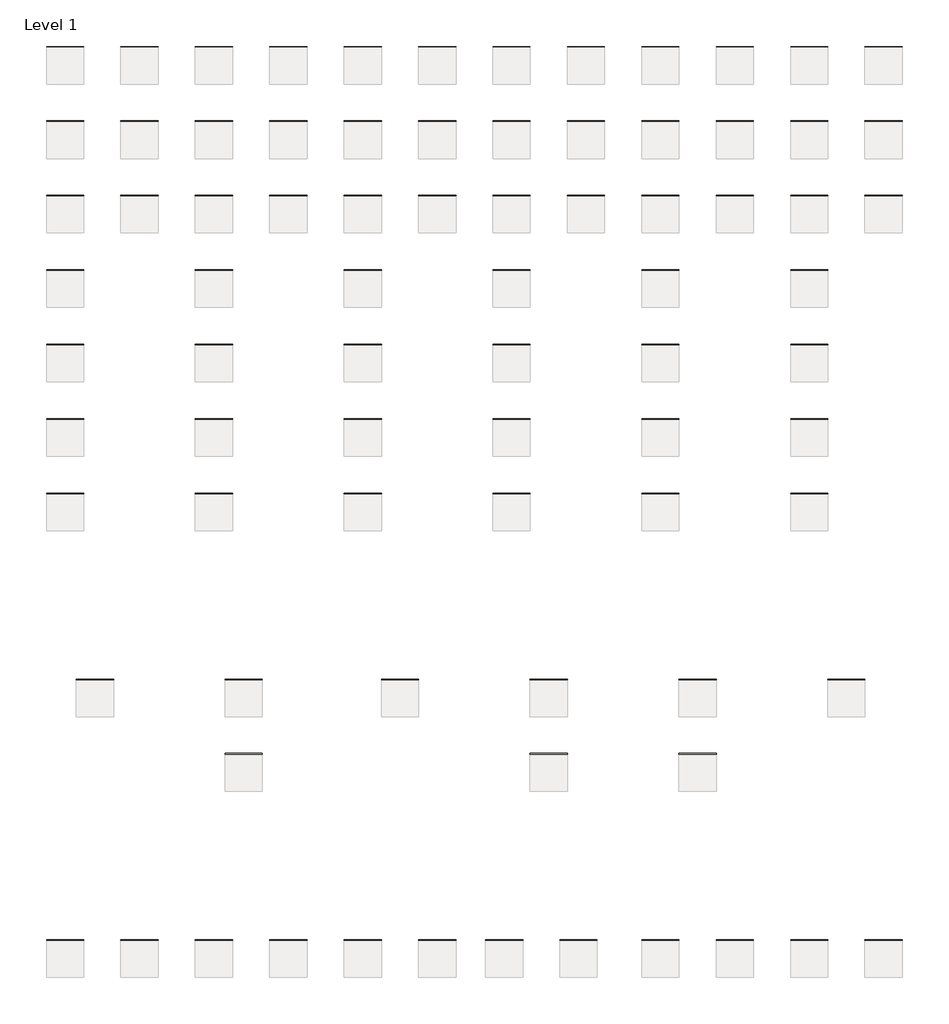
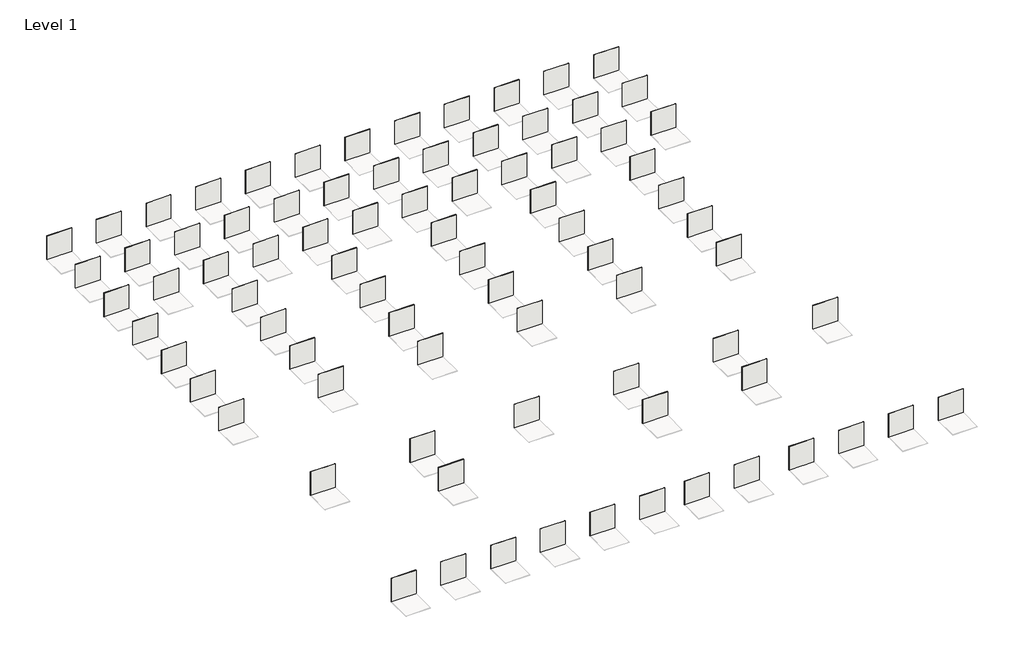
# One storey, part 1 of 2: 81 coverings.
"""IFC4 building model written with IfcOpenShell, lengths in millimetres."""

import ifcopenshell
import ifcopenshell.guid

model = None  # the IFC model being written
_history = None  # IfcOwnerHistory: only IFC2X3 demands one
_inside = {}  # id of a spatial element -> (the spatial element, [elements in it])
_under = {}  # id of a project, library or spatial element -> (it, [spatial elements below it])
_declared = {}  # id of a project -> (the project, [libraries it declares])
_typed = {}  # id of a type object -> (the type object, [elements of that type])
_made_of = {}  # id of a material, layer set ... -> (it, [elements and type objects made of it])


def new_model(schema):
    """Start an empty IFC model of exactly this schema.

    Asked for "IFC4X3", IfcOpenShell would pick the latest addendum, in which some entities
    have other attributes; the version numbers below select the first issue.
    IFC2X3 requires an IfcOwnerHistory on every rooted entity: one is made here for all.
    """
    global model, _history
    if schema == "IFC4X3":
        model = ifcopenshell.file(schema_version=(4, 3, 0, 0))
    else:
        model = ifcopenshell.file(schema=schema)
    _inside.clear()
    _under.clear()
    _declared.clear()
    _typed.clear()
    _made_of.clear()
    _history = None
    if model.schema == "IFC2X3":
        org = make("IfcOrganization", Name="unknown")
        user = make(
            "IfcPersonAndOrganization",
            ThePerson=make("IfcPerson", FamilyName="unknown"),
            TheOrganization=org,
        )
        app = make(
            "IfcApplication",
            ApplicationDeveloper=org,
            Version="unknown",
            ApplicationFullName="unknown",
            ApplicationIdentifier="unknown",
        )
        _history = make(
            "IfcOwnerHistory",
            OwningUser=user,
            OwningApplication=app,
            ChangeAction="ADDED",
            CreationDate=0,
        )
    return model


def make(cls, **values):
    """One entity of the class cls with the attributes given. An attribute that is None is left unset."""
    return model.create_entity(
        cls, **{name: value for name, value in values.items() if value is not None}
    )


def rooted(cls, **values):
    """An entity with a GlobalId (a new one), such as an element, a storey or a relation."""
    return make(cls, GlobalId=ifcopenshell.guid.new(), OwnerHistory=_history, **values)


def si_unit(unit_type, name, prefix=None):
    """IfcSIUnit, for example si_unit("LENGTHUNIT", "METRE", prefix="MILLI")."""
    return make("IfcSIUnit", UnitType=unit_type, Prefix=prefix, Name=name)


def assignment(units):
    """IfcUnitAssignment: the units of a project."""
    return None if units is None else make("IfcUnitAssignment", Units=units)


def point(xyz):
    """IfcCartesianPoint."""
    return None if xyz is None else make("IfcCartesianPoint", Coordinates=xyz)


def direction(xyz):
    """IfcDirection."""
    return None if xyz is None else make("IfcDirection", DirectionRatios=xyz)


def frame(location, z_axis=None, x_axis=None):
    """IfcAxis2Placement3D, a coordinate frame: its origin and axes. An axis left out is left unset."""
    return make(
        "IfcAxis2Placement3D",
        Location=point(location),
        Axis=direction(z_axis),
        RefDirection=direction(x_axis),
    )


def origin():
    """The frame at (0, 0, 0) with its axes left unset."""
    return frame((0.0, 0.0, 0.0))


def origin_with_axes():
    """The frame at (0, 0, 0) with the z axis (0, 0, 1) and the x axis (1, 0, 0) written out."""
    return frame((0.0, 0.0, 0.0), z_axis=(0.0, 0.0, 1.0), x_axis=(1.0, 0.0, 0.0))


def place(relative_to, where):
    """IfcLocalPlacement: puts the frame where relative to a parent placement (None: the world)."""
    return make(
        "IfcLocalPlacement", PlacementRelTo=relative_to, RelativePlacement=where
    )


def context(
    kind, dimensions, precision=None, world=None, true_north=None, identifier=None
):
    """IfcGeometricRepresentationContext, for example the 3D "Model" context."""
    return make(
        "IfcGeometricRepresentationContext",
        ContextIdentifier=identifier,
        ContextType=kind,
        CoordinateSpaceDimension=dimensions,
        Precision=precision,
        WorldCoordinateSystem=world,
        TrueNorth=true_north,
    )


def project(units=None, contexts=None):
    """IfcProject with its units and contexts."""
    return rooted(
        "IfcProject",
        Name="project",
        RepresentationContexts=contexts,
        UnitsInContext=assignment(units),
    )


def spatial(cls, under=None, at=None, **own):
    """A site, building, storey or space (cls), placed at a placement, below another one or the project."""
    s = rooted(cls, ObjectPlacement=at, **own)
    if under is not None:
        _under.setdefault(under.id(), (under, []))[1].append(s)
    return s


def polyline(points):
    """IfcPolyline through the points."""
    return make("IfcPolyline", Points=[point(p) for p in points])


def outline(outer, holes=None, kind="AREA"):
    """IfcArbitraryClosedProfileDef: a profile drawn as a closed curve; with holes, ...WithVoids."""
    if holes is None:
        return make("IfcArbitraryClosedProfileDef", ProfileType=kind, OuterCurve=outer)
    return make(
        "IfcArbitraryProfileDefWithVoids",
        ProfileType=kind,
        OuterCurve=outer,
        InnerCurves=holes,
    )


def extrude(swept, where, along, depth):
    """IfcExtrudedAreaSolid: the profile swept, set in the frame where, extruded along a direction by depth."""
    return make(
        "IfcExtrudedAreaSolid",
        SweptArea=swept,
        Position=where,
        ExtrudedDirection=direction(along),
        Depth=depth,
    )


def shape(context_of_items, identifier, shape_type, items):
    """IfcShapeRepresentation: the items that make up one representation, for example the "Body"."""
    return make(
        "IfcShapeRepresentation",
        ContextOfItems=context_of_items,
        RepresentationIdentifier=identifier,
        RepresentationType=shape_type,
        Items=items,
    )


def made_of(thing, what):
    """Note that an element or type object is made of a material, layer set ...; save() writes the relation."""
    if what is not None:
        _made_of.setdefault(what.id(), (what, []))[1].append(thing)
    return thing


def element(
    cls,
    number,
    at=None,
    inside=None,
    cuts=None,
    type_object=None,
    material=None,
    context=None,
    identifier="Body",
    shape_type=None,
    held_by="IfcProductDefinitionShape",
    body=None,
    shapes=None,
    **own,
):
    """One element of the class cls, such as IfcWall. Its Tag is "e" and its number.

    at: its placement. inside: the storey or other place that contains it. cuts: it is an
    opening in that element (IfcRelVoidsElement). A single representation is given by context,
    identifier, shape_type and body (its items); several are given by shapes. held_by: the class
    of the entity that holds the representations. save() writes the other relations.
    """
    e = rooted(cls, Tag="e%d" % number, ObjectPlacement=at, **own)
    if body is not None:
        shapes = [shape(context, identifier, shape_type, body)]
    if shapes is not None:
        e.Representation = make(held_by, Representations=shapes)
    if inside is not None:
        _inside.setdefault(inside.id(), (inside, []))[1].append(e)
    if cuts is not None:
        rooted(
            "IfcRelVoidsElement", RelatingBuildingElement=cuts, RelatedOpeningElement=e
        )
    if type_object is not None:
        _typed.setdefault(type_object.id(), (type_object, []))[1].append(e)
    return made_of(e, material)


def aggregate(whole, parts):
    """IfcRelAggregates: a whole, such as a stair, and the parts it consists of."""
    return rooted("IfcRelAggregates", RelatingObject=whole, RelatedObjects=parts)


def save(model, path):
    """Write the relations noted so far, then the file.

    IfcRelAggregates (storeys below a building ...), IfcRelContainedInSpatialStructure (elements
    in a storey), IfcRelDefinesByType, IfcRelAssociatesMaterial and IfcRelDeclares: one each for
    every whole, place, type object, material and project.
    """
    for whole, parts in _under.values():
        aggregate(whole, parts)
    for where, things in _inside.values():
        rooted(
            "IfcRelContainedInSpatialStructure",
            RelatedElements=things,
            RelatingStructure=where,
        )
    for kind, things in _typed.values():
        rooted("IfcRelDefinesByType", RelatedObjects=things, RelatingType=kind)
    for what, things in _made_of.values():
        rooted("IfcRelAssociatesMaterial", RelatedObjects=things, RelatingMaterial=what)
    for by, libraries in _declared.values():
        rooted("IfcRelDeclares", RelatingContext=by, RelatedDefinitions=libraries)
    model.write(path)


model = new_model("IFC4")

# Units and contexts
model_context = context("Model", 3, world=origin())
ifc_project = project(units=[si_unit("LENGTHUNIT", "METRE", prefix="MILLI")], contexts=[model_context])

# Site, building, storey
site = spatial("IfcSite", under=ifc_project)
building = spatial("IfcBuilding", under=site)
storey = spatial("IfcBuildingStorey", under=building, Name="Level 1", Elevation=0.0)

# Coverings
placement = place(None, origin())
element("IfcCovering", 1, ObjectType="REVIGRÉS-URBAN-BASE-29,5X29,5-RECT-ANTRACITE", at=placement, inside=storey, context=model_context, shape_type="SweptSolid", body=[
    extrude(outline(polyline([(3778.642714, -1191.9242026), (2778.642714, -1191.9242026), (2778.642714, -1184.2242026), (3778.642714, -1184.2242026), (3778.642714, -1191.9242026)])), origin_with_axes(), (0.0, 0.0, 1.0), 1000.0),
])
element("IfcCovering", 2, ObjectType="REVIGRÉS-URBAN-BASE-29,5X29,5-NAT-ANTRACITE", at=placement, inside=storey, context=model_context, shape_type="SweptSolid", body=[
    extrude(outline(polyline([(5778.642714, -1191.9242026), (4778.642714, -1191.9242026), (4778.642714, -1183.4242026), (5778.642714, -1183.4242026), (5778.642714, -1191.9242026)])), origin_with_axes(), (0.0, 0.0, 1.0), 1000.0),
])
element("IfcCovering", 3, ObjectType="REVIGRÉS-URBAN-BASE-29,5X29,5-RECT-BONE", at=placement, inside=storey, context=model_context, shape_type="SweptSolid", body=[
    extrude(outline(polyline([(7778.642714, -1191.9242026), (6778.642714, -1191.9242026), (6778.642714, -1184.2242026), (7778.642714, -1184.2242026), (7778.642714, -1191.9242026)])), origin_with_axes(), (0.0, 0.0, 1.0), 1000.0),
])
element("IfcCovering", 4, ObjectType="REVIGRÉS-URBAN-BASE-29,5X29,5-NAT-BONE", at=placement, inside=storey, context=model_context, shape_type="SweptSolid", body=[
    extrude(outline(polyline([(9778.642714, -1191.9242026), (8778.642714, -1191.9242026), (8778.642714, -1183.4242026), (9778.642714, -1183.4242026), (9778.642714, -1191.9242026)])), origin_with_axes(), (0.0, 0.0, 1.0), 1000.0),
])
element("IfcCovering", 5, ObjectType="REVIGRÉS-URBAN-BASE-29,5X29,5-RECT-CRAFT", at=placement, inside=storey, context=model_context, shape_type="SweptSolid", body=[
    extrude(outline(polyline([(11778.642714, -1191.9242026), (10778.642714, -1191.9242026), (10778.642714, -1184.2242026), (11778.642714, -1184.2242026), (11778.642714, -1191.9242026)])), origin_with_axes(), (0.0, 0.0, 1.0), 1000.0),
])
element("IfcCovering", 6, ObjectType="REVIGRÉS-URBAN-BASE-29,5X29,5-NAT-CRAFT", at=placement, inside=storey, context=model_context, shape_type="SweptSolid", body=[
    extrude(outline(polyline([(13778.642714, -1191.9242026), (12778.642714, -1191.9242026), (12778.642714, -1183.4242026), (13778.642714, -1183.4242026), (13778.642714, -1191.9242026)])), origin_with_axes(), (0.0, 0.0, 1.0), 1000.0),
])
element("IfcCovering", 7, ObjectType="REVIGRÉS-URBAN-BASE-29,5X29,5-RECT-FOG", at=placement, inside=storey, context=model_context, shape_type="SweptSolid", body=[
    extrude(outline(polyline([(15778.642714, -1191.9242026), (14778.642714, -1191.9242026), (14778.642714, -1184.2242026), (15778.642714, -1184.2242026), (15778.642714, -1191.9242026)])), origin_with_axes(), (0.0, 0.0, 1.0), 1000.0),
])
element("IfcCovering", 8, ObjectType="REVIGRÉS-URBAN-BASE-29,5X29,5-NAT-FOG", at=placement, inside=storey, context=model_context, shape_type="SweptSolid", body=[
    extrude(outline(polyline([(17778.642714, -1191.9242026), (16778.642714, -1191.9242026), (16778.642714, -1183.4242026), (17778.642714, -1183.4242026), (17778.642714, -1191.9242026)])), origin_with_axes(), (0.0, 0.0, 1.0), 1000.0),
])
element("IfcCovering", 9, ObjectType="REVIGRÉS-URBAN-BASE-29,5X29,5-RECT-GRIS", at=placement, inside=storey, context=model_context, shape_type="SweptSolid", body=[
    extrude(outline(polyline([(19778.642714, -1191.9242026), (18778.642714, -1191.9242026), (18778.642714, -1184.2242026), (19778.642714, -1184.2242026), (19778.642714, -1191.9242026)])), origin_with_axes(), (0.0, 0.0, 1.0), 1000.0),
])
element("IfcCovering", 10, ObjectType="REVIGRÉS-URBAN-BASE-29,5X29,5-NAT-GRIS", at=placement, inside=storey, context=model_context, shape_type="SweptSolid", body=[
    extrude(outline(polyline([(21778.642714, -1191.9242026), (20778.642714, -1191.9242026), (20778.642714, -1183.4242026), (21778.642714, -1183.4242026), (21778.642714, -1191.9242026)])), origin_with_axes(), (0.0, 0.0, 1.0), 1000.0),
])
element("IfcCovering", 11, ObjectType="REVIGRÉS-URBAN-BASE-29,5X29,5-RECT-OFFWHITE", at=placement, inside=storey, context=model_context, shape_type="SweptSolid", body=[
    extrude(outline(polyline([(23778.642714, -1191.9242026), (22778.642714, -1191.9242026), (22778.642714, -1184.2242026), (23778.642714, -1184.2242026), (23778.642714, -1191.9242026)])), origin_with_axes(), (0.0, 0.0, 1.0), 1000.0),
])
element("IfcCovering", 12, ObjectType="REVIGRÉS-URBAN-BASE-29,5X59,2-RECT-ANTRACITE", at=placement, inside=storey, context=model_context, shape_type="SweptSolid", body=[
    extrude(outline(polyline([(3778.642714, -3191.9242026), (2778.642714, -3191.9242026), (2778.642714, -3183.4242026), (3778.642714, -3183.4242026), (3778.642714, -3191.9242026)])), origin_with_axes(), (0.0, 0.0, 1.0), 1000.0),
])
element("IfcCovering", 13, ObjectType="REVIGRÉS-URBAN-BASE-29,5X59,2-RECT-BONE", at=placement, inside=storey, context=model_context, shape_type="SweptSolid", body=[
    extrude(outline(polyline([(7778.642714, -3191.9242026), (6778.642714, -3191.9242026), (6778.642714, -3183.4242026), (7778.642714, -3183.4242026), (7778.642714, -3191.9242026)])), origin_with_axes(), (0.0, 0.0, 1.0), 1000.0),
])
element("IfcCovering", 14, ObjectType="REVIGRÉS-URBAN-BASE-29,5X59,2-RECT-CRAFT", at=placement, inside=storey, context=model_context, shape_type="SweptSolid", body=[
    extrude(outline(polyline([(11778.642714, -3191.9242026), (10778.642714, -3191.9242026), (10778.642714, -3183.4242026), (11778.642714, -3183.4242026), (11778.642714, -3191.9242026)])), origin_with_axes(), (0.0, 0.0, 1.0), 1000.0),
])
element("IfcCovering", 15, ObjectType="REVIGRÉS-URBAN-BASE-29,5X59,2-RECT-FOG", at=placement, inside=storey, context=model_context, shape_type="SweptSolid", body=[
    extrude(outline(polyline([(15778.642714, -3191.9242026), (14778.642714, -3191.9242026), (14778.642714, -3183.4242026), (15778.642714, -3183.4242026), (15778.642714, -3191.9242026)])), origin_with_axes(), (0.0, 0.0, 1.0), 1000.0),
])
element("IfcCovering", 16, ObjectType="REVIGRÉS-URBAN-BASE-29,5X59,2-RECT-GRIS", at=placement, inside=storey, context=model_context, shape_type="SweptSolid", body=[
    extrude(outline(polyline([(19778.642714, -3191.9242026), (18778.642714, -3191.9242026), (18778.642714, -3183.4242026), (19778.642714, -3183.4242026), (19778.642714, -3191.9242026)])), origin_with_axes(), (0.0, 0.0, 1.0), 1000.0),
])
element("IfcCovering", 17, ObjectType="REVIGRÉS-URBAN-BASE-29,5X59,2-RECT-OFFWHITE", at=placement, inside=storey, context=model_context, shape_type="SweptSolid", body=[
    extrude(outline(polyline([(23778.642714, -3191.9242026), (22778.642714, -3191.9242026), (22778.642714, -3183.4242026), (23778.642714, -3183.4242026), (23778.642714, -3191.9242026)])), origin_with_axes(), (0.0, 0.0, 1.0), 1000.0),
])
element("IfcCovering", 18, ObjectType="REVIGRÉS-URBAN-BASE-44,53X44,53-RECT-ANTRACITE", at=placement, inside=storey, context=model_context, shape_type="SweptSolid", body=[
    extrude(outline(polyline([(3778.642714, -5191.9242026), (2778.642714, -5191.9242026), (2778.642714, -5183.4242026), (3778.642714, -5183.4242026), (3778.642714, -5191.9242026)])), origin_with_axes(), (0.0, 0.0, 1.0), 1000.0),
])
element("IfcCovering", 19, ObjectType="REVIGRÉS-URBAN-BASE-45X45-NAT-ANTRACITE", at=placement, inside=storey, context=model_context, shape_type="SweptSolid", body=[
    extrude(outline(polyline([(5778.642714, -5191.9242026), (4778.642714, -5191.9242026), (4778.642714, -5183.4242026), (5778.642714, -5183.4242026), (5778.642714, -5191.9242026)])), origin_with_axes(), (0.0, 0.0, 1.0), 1000.0),
])
element("IfcCovering", 20, ObjectType="REVIGRÉS-URBAN-BASE-44,53X44,53-RECT-BONE", at=placement, inside=storey, context=model_context, shape_type="SweptSolid", body=[
    extrude(outline(polyline([(7778.642714, -5191.9242026), (6778.642714, -5191.9242026), (6778.642714, -5183.4242026), (7778.642714, -5183.4242026), (7778.642714, -5191.9242026)])), origin_with_axes(), (0.0, 0.0, 1.0), 1000.0),
])
element("IfcCovering", 21, ObjectType="REVIGRÉS-URBAN-BASE-45X45-NAT-BONE", at=placement, inside=storey, context=model_context, shape_type="SweptSolid", body=[
    extrude(outline(polyline([(9778.642714, -5191.9242026), (8778.642714, -5191.9242026), (8778.642714, -5183.4242026), (9778.642714, -5183.4242026), (9778.642714, -5191.9242026)])), origin_with_axes(), (0.0, 0.0, 1.0), 1000.0),
])
element("IfcCovering", 22, ObjectType="REVIGRÉS-URBAN-BASE-44,53X44,53-RECT-CRAFT", at=placement, inside=storey, context=model_context, shape_type="SweptSolid", body=[
    extrude(outline(polyline([(11778.642714, -5191.9242026), (10778.642714, -5191.9242026), (10778.642714, -5183.4242026), (11778.642714, -5183.4242026), (11778.642714, -5191.9242026)])), origin_with_axes(), (0.0, 0.0, 1.0), 1000.0),
])
element("IfcCovering", 23, ObjectType="REVIGRÉS-URBAN-BASE-45X45-NAT-CRAFT", at=placement, inside=storey, context=model_context, shape_type="SweptSolid", body=[
    extrude(outline(polyline([(13778.642714, -5191.9242026), (12778.642714, -5191.9242026), (12778.642714, -5183.4242026), (13778.642714, -5183.4242026), (13778.642714, -5191.9242026)])), origin_with_axes(), (0.0, 0.0, 1.0), 1000.0),
])
element("IfcCovering", 24, ObjectType="REVIGRÉS-URBAN-BASE-44,53X44,53-RECT-FOG", at=placement, inside=storey, context=model_context, shape_type="SweptSolid", body=[
    extrude(outline(polyline([(15778.642714, -5191.9242026), (14778.642714, -5191.9242026), (14778.642714, -5183.4242026), (15778.642714, -5183.4242026), (15778.642714, -5191.9242026)])), origin_with_axes(), (0.0, 0.0, 1.0), 1000.0),
])
element("IfcCovering", 25, ObjectType="REVIGRÉS-URBAN-BASE-45X45-NAT-FOG", at=placement, inside=storey, context=model_context, shape_type="SweptSolid", body=[
    extrude(outline(polyline([(17778.642714, -5191.9242026), (16778.642714, -5191.9242026), (16778.642714, -5183.4242026), (17778.642714, -5183.4242026), (17778.642714, -5191.9242026)])), origin_with_axes(), (0.0, 0.0, 1.0), 1000.0),
])
element("IfcCovering", 26, ObjectType="REVIGRÉS-URBAN-BASE-44,53X44,53-RECT-GRIS", at=placement, inside=storey, context=model_context, shape_type="SweptSolid", body=[
    extrude(outline(polyline([(19778.642714, -5191.9242026), (18778.642714, -5191.9242026), (18778.642714, -5183.4242026), (19778.642714, -5183.4242026), (19778.642714, -5191.9242026)])), origin_with_axes(), (0.0, 0.0, 1.0), 1000.0),
])
element("IfcCovering", 27, ObjectType="REVIGRÉS-URBAN-BASE-45X45-NAT-GRIS", at=placement, inside=storey, context=model_context, shape_type="SweptSolid", body=[
    extrude(outline(polyline([(21778.642714, -5191.9242026), (20778.642714, -5191.9242026), (20778.642714, -5183.4242026), (21778.642714, -5183.4242026), (21778.642714, -5191.9242026)])), origin_with_axes(), (0.0, 0.0, 1.0), 1000.0),
])
element("IfcCovering", 28, ObjectType="REVIGRÉS-URBAN-BASE-44,53X44,53-RECT-OFFWHITE", at=placement, inside=storey, context=model_context, shape_type="SweptSolid", body=[
    extrude(outline(polyline([(23778.642714, -5191.9242026), (22778.642714, -5191.9242026), (22778.642714, -5183.4242026), (23778.642714, -5183.4242026), (23778.642714, -5191.9242026)])), origin_with_axes(), (0.0, 0.0, 1.0), 1000.0),
])
element("IfcCovering", 29, ObjectType="REVIGRÉS-URBAN-BASE-44,53X88,9-RECT-ANTRACITE", at=placement, inside=storey, context=model_context, shape_type="SweptSolid", body=[
    extrude(outline(polyline([(3778.642714, -7191.9242026), (2778.642714, -7191.9242026), (2778.642714, -7181.4242026), (3778.642714, -7181.4242026), (3778.642714, -7191.9242026)])), origin_with_axes(), (0.0, 0.0, 1.0), 1000.0),
])
element("IfcCovering", 30, ObjectType="REVIGRÉS-URBAN-BASE-44,53X88,9-RECT-BONE", at=placement, inside=storey, context=model_context, shape_type="SweptSolid", body=[
    extrude(outline(polyline([(7778.642714, -7191.9242026), (6778.642714, -7191.9242026), (6778.642714, -7181.4242026), (7778.642714, -7181.4242026), (7778.642714, -7191.9242026)])), origin_with_axes(), (0.0, 0.0, 1.0), 1000.0),
])
element("IfcCovering", 31, ObjectType="REVIGRÉS-URBAN-BASE-44,53X88,9-RECT-CRAFT", at=placement, inside=storey, context=model_context, shape_type="SweptSolid", body=[
    extrude(outline(polyline([(11778.642714, -7191.9242026), (10778.642714, -7191.9242026), (10778.642714, -7181.4242026), (11778.642714, -7181.4242026), (11778.642714, -7191.9242026)])), origin_with_axes(), (0.0, 0.0, 1.0), 1000.0),
])
element("IfcCovering", 32, ObjectType="REVIGRÉS-URBAN-BASE-44,53X88,9-RECT-FOG", at=placement, inside=storey, context=model_context, shape_type="SweptSolid", body=[
    extrude(outline(polyline([(15778.642714, -7191.9242026), (14778.642714, -7191.9242026), (14778.642714, -7181.4242026), (15778.642714, -7181.4242026), (15778.642714, -7191.9242026)])), origin_with_axes(), (0.0, 0.0, 1.0), 1000.0),
])
element("IfcCovering", 33, ObjectType="REVIGRÉS-URBAN-BASE-44,53X88,9-RECT-GRIS", at=placement, inside=storey, context=model_context, shape_type="SweptSolid", body=[
    extrude(outline(polyline([(19778.642714, -7191.9242026), (18778.642714, -7191.9242026), (18778.642714, -7181.4242026), (19778.642714, -7181.4242026), (19778.642714, -7191.9242026)])), origin_with_axes(), (0.0, 0.0, 1.0), 1000.0),
])
element("IfcCovering", 34, ObjectType="REVIGRÉS-URBAN-BASE-44,53X88,9-RECT-OFFWHITE", at=placement, inside=storey, context=model_context, shape_type="SweptSolid", body=[
    extrude(outline(polyline([(23778.642714, -7191.9242026), (22778.642714, -7191.9242026), (22778.642714, -7181.4242026), (23778.642714, -7181.4242026), (23778.642714, -7191.9242026)])), origin_with_axes(), (0.0, 0.0, 1.0), 1000.0),
])
element("IfcCovering", 35, ObjectType="REVIGRÉS-URBAN-BASE-59,2X59,2-RECT-ANTRACITE", at=placement, inside=storey, context=model_context, shape_type="SweptSolid", body=[
    extrude(outline(polyline([(3778.642714, -9191.9242026), (2778.642714, -9191.9242026), (2778.642714, -9181.4242026), (3778.642714, -9181.4242026), (3778.642714, -9191.9242026)])), origin_with_axes(), (0.0, 0.0, 1.0), 1000.0),
])
element("IfcCovering", 36, ObjectType="REVIGRÉS-URBAN-BASE-59,2X59,2-RECT-BONE", at=placement, inside=storey, context=model_context, shape_type="SweptSolid", body=[
    extrude(outline(polyline([(7778.642714, -9191.9242026), (6778.642714, -9191.9242026), (6778.642714, -9181.4242026), (7778.642714, -9181.4242026), (7778.642714, -9191.9242026)])), origin_with_axes(), (0.0, 0.0, 1.0), 1000.0),
])
element("IfcCovering", 37, ObjectType="REVIGRÉS-URBAN-BASE-59,2X59,2-RECT-CRAFT", at=placement, inside=storey, context=model_context, shape_type="SweptSolid", body=[
    extrude(outline(polyline([(11778.642714, -9191.9242026), (10778.642714, -9191.9242026), (10778.642714, -9181.4242026), (11778.642714, -9181.4242026), (11778.642714, -9191.9242026)])), origin_with_axes(), (0.0, 0.0, 1.0), 1000.0),
])
element("IfcCovering", 38, ObjectType="REVIGRÉS-URBAN-BASE-59,2X59,2-RECT-FOG", at=placement, inside=storey, context=model_context, shape_type="SweptSolid", body=[
    extrude(outline(polyline([(15778.642714, -9191.9242026), (14778.642714, -9191.9242026), (14778.642714, -9181.4242026), (15778.642714, -9181.4242026), (15778.642714, -9191.9242026)])), origin_with_axes(), (0.0, 0.0, 1.0), 1000.0),
])
element("IfcCovering", 39, ObjectType="REVIGRÉS-URBAN-BASE-59,2X59,2-RECT-GRIS", at=placement, inside=storey, context=model_context, shape_type="SweptSolid", body=[
    extrude(outline(polyline([(19778.642714, -9191.9242026), (18778.642714, -9191.9242026), (18778.642714, -9181.4242026), (19778.642714, -9181.4242026), (19778.642714, -9191.9242026)])), origin_with_axes(), (0.0, 0.0, 1.0), 1000.0),
])
element("IfcCovering", 40, ObjectType="REVIGRÉS-URBAN-BASE-59,2X59,2-RECT-OFFWHITE", at=placement, inside=storey, context=model_context, shape_type="SweptSolid", body=[
    extrude(outline(polyline([(23778.642714, -9191.9242026), (22778.642714, -9191.9242026), (22778.642714, -9181.4242026), (23778.642714, -9181.4242026), (23778.642714, -9191.9242026)])), origin_with_axes(), (0.0, 0.0, 1.0), 1000.0),
])
element("IfcCovering", 41, ObjectType="REVIGRÉS-URBAN-BASE-59,2X118,6-RECT-ANTRACITE", at=placement, inside=storey, context=model_context, shape_type="SweptSolid", body=[
    extrude(outline(polyline([(3778.642714, -11191.9242026), (2778.642714, -11191.9242026), (2778.642714, -11182.1242026), (3778.642714, -11182.1242026), (3778.642714, -11191.9242026)])), origin_with_axes(), (0.0, 0.0, 1.0), 1000.0),
])
element("IfcCovering", 42, ObjectType="REVIGRÉS-URBAN-BASE-59,2X118,6-RECT-BONE", at=placement, inside=storey, context=model_context, shape_type="SweptSolid", body=[
    extrude(outline(polyline([(7778.642714, -11191.9242026), (6778.642714, -11191.9242026), (6778.642714, -11182.1242026), (7778.642714, -11182.1242026), (7778.642714, -11191.9242026)])), origin_with_axes(), (0.0, 0.0, 1.0), 1000.0),
])
element("IfcCovering", 43, ObjectType="REVIGRÉS-URBAN-BASE-59,2X118,6-RECT-CRAFT", at=placement, inside=storey, context=model_context, shape_type="SweptSolid", body=[
    extrude(outline(polyline([(11778.642714, -11191.9242026), (10778.642714, -11191.9242026), (10778.642714, -11182.1242026), (11778.642714, -11182.1242026), (11778.642714, -11191.9242026)])), origin_with_axes(), (0.0, 0.0, 1.0), 1000.0),
])
element("IfcCovering", 44, ObjectType="REVIGRÉS-URBAN-BASE-59,2X118,6-RECT-FOG", at=placement, inside=storey, context=model_context, shape_type="SweptSolid", body=[
    extrude(outline(polyline([(15778.642714, -11191.9242026), (14778.642714, -11191.9242026), (14778.642714, -11182.1242026), (15778.642714, -11182.1242026), (15778.642714, -11191.9242026)])), origin_with_axes(), (0.0, 0.0, 1.0), 1000.0),
])
element("IfcCovering", 45, ObjectType="REVIGRÉS-URBAN-BASE-59,2X118,6-RECT-GRIS", at=placement, inside=storey, context=model_context, shape_type="SweptSolid", body=[
    extrude(outline(polyline([(19778.642714, -11191.9242026), (18778.642714, -11191.9242026), (18778.642714, -11182.1242026), (19778.642714, -11182.1242026), (19778.642714, -11191.9242026)])), origin_with_axes(), (0.0, 0.0, 1.0), 1000.0),
])
element("IfcCovering", 46, ObjectType="REVIGRÉS-URBAN-BASE-59,2X118,6-RECT-OFFWHITE", at=placement, inside=storey, context=model_context, shape_type="SweptSolid", body=[
    extrude(outline(polyline([(23778.642714, -11191.9242026), (22778.642714, -11191.9242026), (22778.642714, -11182.1242026), (23778.642714, -11182.1242026), (23778.642714, -11191.9242026)])), origin_with_axes(), (0.0, 0.0, 1.0), 1000.0),
])
element("IfcCovering", 47, ObjectType="REVIGRÉS-URBAN-BASE-88,9X88,9-RECT-ANTRACITE", at=placement, inside=storey, context=model_context, shape_type="SweptSolid", body=[
    extrude(outline(polyline([(3778.642714, -13191.9242026), (2778.642714, -13191.9242026), (2778.642714, -13181.4242026), (3778.642714, -13181.4242026), (3778.642714, -13191.9242026)])), origin_with_axes(), (0.0, 0.0, 1.0), 1000.0),
])
element("IfcCovering", 48, ObjectType="REVIGRÉS-URBAN-BASE-88,9X88,9-RECT-BONE", at=placement, inside=storey, context=model_context, shape_type="SweptSolid", body=[
    extrude(outline(polyline([(7778.642714, -13191.9242026), (6778.642714, -13191.9242026), (6778.642714, -13181.4242026), (7778.642714, -13181.4242026), (7778.642714, -13191.9242026)])), origin_with_axes(), (0.0, 0.0, 1.0), 1000.0),
])
element("IfcCovering", 49, ObjectType="REVIGRÉS-URBAN-BASE-88,9X88,9-RECT-CRAFT", at=placement, inside=storey, context=model_context, shape_type="SweptSolid", body=[
    extrude(outline(polyline([(11778.642714, -13191.9242026), (10778.642714, -13191.9242026), (10778.642714, -13181.4242026), (11778.642714, -13181.4242026), (11778.642714, -13191.9242026)])), origin_with_axes(), (0.0, 0.0, 1.0), 1000.0),
])
element("IfcCovering", 50, ObjectType="REVIGRÉS-URBAN-BASE-88,9X88,9-RECT-FOG", at=placement, inside=storey, context=model_context, shape_type="SweptSolid", body=[
    extrude(outline(polyline([(15778.642714, -13191.9242026), (14778.642714, -13191.9242026), (14778.642714, -13181.4242026), (15778.642714, -13181.4242026), (15778.642714, -13191.9242026)])), origin_with_axes(), (0.0, 0.0, 1.0), 1000.0),
])
element("IfcCovering", 51, ObjectType="REVIGRÉS-URBAN-BASE-88,9X88,9-RECT-GRIS", at=placement, inside=storey, context=model_context, shape_type="SweptSolid", body=[
    extrude(outline(polyline([(19778.642714, -13191.9242026), (18778.642714, -13191.9242026), (18778.642714, -13181.4242026), (19778.642714, -13181.4242026), (19778.642714, -13191.9242026)])), origin_with_axes(), (0.0, 0.0, 1.0), 1000.0),
])
element("IfcCovering", 52, ObjectType="REVIGRÉS-URBAN-BASE-88,9X88,9-RECT-OFFWHITE", at=placement, inside=storey, context=model_context, shape_type="SweptSolid", body=[
    extrude(outline(polyline([(23778.642714, -13191.9242026), (22778.642714, -13191.9242026), (22778.642714, -13181.4242026), (23778.642714, -13181.4242026), (23778.642714, -13191.9242026)])), origin_with_axes(), (0.0, 0.0, 1.0), 1000.0),
])
element("IfcCovering", 53, ObjectType="REVIGRÉS-URBAN-BASE-29,5X29,5-NAT-OFFWHITE", at=placement, inside=storey, context=model_context, shape_type="SweptSolid", body=[
    extrude(outline(polyline([(25778.642714, -1191.9242026), (24778.642714, -1191.9242026), (24778.642714, -1183.4242026), (25778.642714, -1183.4242026), (25778.642714, -1191.9242026)])), origin_with_axes(), (0.0, 0.0, 1.0), 1000.0),
])
element("IfcCovering", 54, ObjectType="REVIGRÉS-URBAN-BASE-45X45-NAT-OFFWHITE", at=placement, inside=storey, context=model_context, shape_type="SweptSolid", body=[
    extrude(outline(polyline([(25778.642714, -5191.9242026), (24778.642714, -5191.9242026), (24778.642714, -5183.4242026), (25778.642714, -5183.4242026), (25778.642714, -5191.9242026)])), origin_with_axes(), (0.0, 0.0, 1.0), 1000.0),
])
element("IfcCovering", 55, ObjectType="REVIGRÉS-URBAN-BASE-29,5X59,2-NAT-ANTRACITE", at=placement, inside=storey, context=model_context, shape_type="SweptSolid", body=[
    extrude(outline(polyline([(5778.642714, -3191.9242026), (4778.642714, -3191.9242026), (4778.642714, -3183.4242026), (5778.642714, -3183.4242026), (5778.642714, -3191.9242026)])), origin_with_axes(), (0.0, 0.0, 1.0), 1000.0),
])
element("IfcCovering", 56, ObjectType="REVIGRÉS-URBAN-BASE-29,5X59,2-NAT-BONE", at=placement, inside=storey, context=model_context, shape_type="SweptSolid", body=[
    extrude(outline(polyline([(9778.642714, -3191.9242026), (8778.642714, -3191.9242026), (8778.642714, -3183.4242026), (9778.642714, -3183.4242026), (9778.642714, -3191.9242026)])), origin_with_axes(), (0.0, 0.0, 1.0), 1000.0),
])
element("IfcCovering", 57, ObjectType="REVIGRÉS-URBAN-BASE-29,5X59,2-NAT-CRAFT", at=placement, inside=storey, context=model_context, shape_type="SweptSolid", body=[
    extrude(outline(polyline([(13778.642714, -3191.9242026), (12778.642714, -3191.9242026), (12778.642714, -3183.4242026), (13778.642714, -3183.4242026), (13778.642714, -3191.9242026)])), origin_with_axes(), (0.0, 0.0, 1.0), 1000.0),
])
element("IfcCovering", 58, ObjectType="REVIGRÉS-URBAN-BASE-29,5X59,2-NAT-FOG", at=placement, inside=storey, context=model_context, shape_type="SweptSolid", body=[
    extrude(outline(polyline([(17778.642714, -3191.9242026), (16778.642714, -3191.9242026), (16778.642714, -3183.4242026), (17778.642714, -3183.4242026), (17778.642714, -3191.9242026)])), origin_with_axes(), (0.0, 0.0, 1.0), 1000.0),
])
element("IfcCovering", 59, ObjectType="REVIGRÉS-URBAN-BASE-29,5X59,2-NAT-GRIS", at=placement, inside=storey, context=model_context, shape_type="SweptSolid", body=[
    extrude(outline(polyline([(21778.642714, -3191.9242026), (20778.642714, -3191.9242026), (20778.642714, -3183.4242026), (21778.642714, -3183.4242026), (21778.642714, -3191.9242026)])), origin_with_axes(), (0.0, 0.0, 1.0), 1000.0),
])
element("IfcCovering", 60, ObjectType="REVIGRÉS-URBAN-BASE-29,5X59,2-NAT-OFFWHITE", at=placement, inside=storey, context=model_context, shape_type="SweptSolid", body=[
    extrude(outline(polyline([(25778.642714, -3191.9242026), (24778.642714, -3191.9242026), (24778.642714, -3183.4242026), (25778.642714, -3183.4242026), (25778.642714, -3191.9242026)])), origin_with_axes(), (0.0, 0.0, 1.0), 1000.0),
])
element("IfcCovering", 61, ObjectType="REVIGRÉS-URBAN-BASE-59,2X59,2-RECT-ANTISLIP ANTRACITE", at=placement, inside=storey, context=model_context, shape_type="SweptSolid", body=[
    extrude(outline(polyline([(4578.642714, -18191.9242026), (3578.642714, -18191.9242026), (3578.642714, -18181.4242026), (4578.642714, -18181.4242026), (4578.642714, -18191.9242026)])), origin_with_axes(), (0.0, 0.0, 1.0), 1000.0),
])
element("IfcCovering", 62, ObjectType="REVIGRÉS-URBAN-BASE-59,2X59,2-RECT-ANTISLIP BONE", at=placement, inside=storey, context=model_context, shape_type="SweptSolid", body=[
    extrude(outline(polyline([(8578.3955056, -18191.9242026), (7578.3955056, -18191.9242026), (7578.3955056, -18181.4242026), (8578.3955056, -18181.4242026), (8578.3955056, -18191.9242026)])), origin_with_axes(), (0.0, 0.0, 1.0), 1000.0),
])
element("IfcCovering", 63, ObjectType="REVIGRÉS-URBAN-BASE-59,2X59,2-RECT-ANTISLIP CRAFT", at=placement, inside=storey, context=model_context, shape_type="SweptSolid", body=[
    extrude(outline(polyline([(12778.642714, -18191.9242026), (11778.642714, -18191.9242026), (11778.642714, -18181.4242026), (12778.642714, -18181.4242026), (12778.642714, -18191.9242026)])), origin_with_axes(), (0.0, 0.0, 1.0), 1000.0),
])
element("IfcCovering", 64, ObjectType="REVIGRÉS-URBAN-BASE-59,2X59,2-RECT-ANTISLIP FOG", at=placement, inside=storey, context=model_context, shape_type="SweptSolid", body=[
    extrude(outline(polyline([(16778.642714, -18191.9242026), (15778.642714, -18191.9242026), (15778.642714, -18181.4242026), (16778.642714, -18181.4242026), (16778.642714, -18191.9242026)])), origin_with_axes(), (0.0, 0.0, 1.0), 1000.0),
])
element("IfcCovering", 65, ObjectType="REVIGRÉS-URBAN-BASE-59,2X59,2-RECT-ANTISLIP GRIS", at=placement, inside=storey, context=model_context, shape_type="SweptSolid", body=[
    extrude(outline(polyline([(20778.642714, -18191.9242026), (19778.642714, -18191.9242026), (19778.642714, -18181.4242026), (20778.642714, -18181.4242026), (20778.642714, -18191.9242026)])), origin_with_axes(), (0.0, 0.0, 1.0), 1000.0),
])
element("IfcCovering", 66, ObjectType="REVIGRÉS-URBAN-BASE-59,2X59,2-RECT-ANTISLIP OFFWHITE", at=placement, inside=storey, context=model_context, shape_type="SweptSolid", body=[
    extrude(outline(polyline([(24778.642714, -18191.9242026), (23778.642714, -18191.9242026), (23778.642714, -18181.4242026), (24778.642714, -18181.4242026), (24778.642714, -18191.9242026)])), origin_with_axes(), (0.0, 0.0, 1.0), 1000.0),
])
element("IfcCovering", 67, ObjectType="REVIGRÉS-URBAN-BASE-44,53X44,53-RECT-HYDRAULIK ANTRACITE", at=placement, inside=storey, context=model_context, shape_type="SweptSolid", body=[
    extrude(outline(polyline([(3778.642714, -25191.9242026), (2778.642714, -25191.9242026), (2778.642714, -25183.4242026), (3778.642714, -25183.4242026), (3778.642714, -25191.9242026)])), origin_with_axes(), (0.0, 0.0, 1.0), 1000.0),
])
element("IfcCovering", 68, ObjectType="REVIGRÉS-URBAN-BASE-45X45-NAT-HYDRAULIK ANTRACITE", at=placement, inside=storey, context=model_context, shape_type="SweptSolid", body=[
    extrude(outline(polyline([(5778.642714, -25191.9242026), (4778.642714, -25191.9242026), (4778.642714, -25183.4242026), (5778.642714, -25183.4242026), (5778.642714, -25191.9242026)])), origin_with_axes(), (0.0, 0.0, 1.0), 1000.0),
])
element("IfcCovering", 69, ObjectType="REVIGRÉS-URBAN-BASE-44,53X44,53-RECT-HYDRAULIK BONE", at=placement, inside=storey, context=model_context, shape_type="SweptSolid", body=[
    extrude(outline(polyline([(7778.642714, -25191.9242026), (6778.642714, -25191.9242026), (6778.642714, -25183.4242026), (7778.642714, -25183.4242026), (7778.642714, -25191.9242026)])), origin_with_axes(), (0.0, 0.0, 1.0), 1000.0),
])
element("IfcCovering", 70, ObjectType="REVIGRÉS-URBAN-BASE-45X45-NAT-HYDRAULIK BONE", at=placement, inside=storey, context=model_context, shape_type="SweptSolid", body=[
    extrude(outline(polyline([(9778.642714, -25191.9242026), (8778.642714, -25191.9242026), (8778.642714, -25183.4242026), (9778.642714, -25183.4242026), (9778.642714, -25191.9242026)])), origin_with_axes(), (0.0, 0.0, 1.0), 1000.0),
])
element("IfcCovering", 71, ObjectType="REVIGRÉS-URBAN-BASE-44,53X44,53-RECT-HYDRAULIK CRAFT", at=placement, inside=storey, context=model_context, shape_type="SweptSolid", body=[
    extrude(outline(polyline([(11778.642714, -25191.9242026), (10778.642714, -25191.9242026), (10778.642714, -25183.4242026), (11778.642714, -25183.4242026), (11778.642714, -25191.9242026)])), origin_with_axes(), (0.0, 0.0, 1.0), 1000.0),
])
element("IfcCovering", 72, ObjectType="REVIGRÉS-URBAN-BASE-45X45-NAT-HYDRAULIK CRAFT", at=placement, inside=storey, context=model_context, shape_type="SweptSolid", body=[
    extrude(outline(polyline([(13778.642714, -25191.9242026), (12778.642714, -25191.9242026), (12778.642714, -25183.4242026), (13778.642714, -25183.4242026), (13778.642714, -25191.9242026)])), origin_with_axes(), (0.0, 0.0, 1.0), 1000.0),
])
element("IfcCovering", 73, ObjectType="REVIGRÉS-URBAN-BASE-44,53X44,53-RECT-HYDRAULIK FOG", at=placement, inside=storey, context=model_context, shape_type="SweptSolid", body=[
    extrude(outline(polyline([(15578.642714, -25191.9242026), (14578.642714, -25191.9242026), (14578.642714, -25183.4242026), (15578.642714, -25183.4242026), (15578.642714, -25191.9242026)])), origin_with_axes(), (0.0, 0.0, 1.0), 1000.0),
])
element("IfcCovering", 74, ObjectType="REVIGRÉS-URBAN-BASE-45X45-NAT-HYDRAULIK FOG", at=placement, inside=storey, context=model_context, shape_type="SweptSolid", body=[
    extrude(outline(polyline([(17578.642714, -25191.9242026), (16578.642714, -25191.9242026), (16578.642714, -25183.4242026), (17578.642714, -25183.4242026), (17578.642714, -25191.9242026)])), origin_with_axes(), (0.0, 0.0, 1.0), 1000.0),
])
element("IfcCovering", 75, ObjectType="REVIGRÉS-URBAN-BASE-44,53X44,53-RECT-HYDRAULIK GRIS", at=placement, inside=storey, context=model_context, shape_type="SweptSolid", body=[
    extrude(outline(polyline([(19778.642714, -25191.9242026), (18778.642714, -25191.9242026), (18778.642714, -25183.4242026), (19778.642714, -25183.4242026), (19778.642714, -25191.9242026)])), origin_with_axes(), (0.0, 0.0, 1.0), 1000.0),
])
element("IfcCovering", 76, ObjectType="REVIGRÉS-URBAN-BASE-45X45-NAT-HYDRAULIK GRIS", at=placement, inside=storey, context=model_context, shape_type="SweptSolid", body=[
    extrude(outline(polyline([(21778.642714, -25191.9242026), (20778.642714, -25191.9242026), (20778.642714, -25183.4242026), (21778.642714, -25183.4242026), (21778.642714, -25191.9242026)])), origin_with_axes(), (0.0, 0.0, 1.0), 1000.0),
])
element("IfcCovering", 77, ObjectType="REVIGRÉS-URBAN-BASE-44,53X44,53-RECT-HYDRAULIK OFFWHITE", at=placement, inside=storey, context=model_context, shape_type="SweptSolid", body=[
    extrude(outline(polyline([(23778.642714, -25191.9242026), (22778.642714, -25191.9242026), (22778.642714, -25183.4242026), (23778.642714, -25183.4242026), (23778.642714, -25191.9242026)])), origin_with_axes(), (0.0, 0.0, 1.0), 1000.0),
])
element("IfcCovering", 78, ObjectType="REVIGRÉS-URBAN-BASE-45X45-NAT-HYDRAULIK OFFWHITE", at=placement, inside=storey, context=model_context, shape_type="SweptSolid", body=[
    extrude(outline(polyline([(25778.642714, -25191.9242026), (24778.642714, -25191.9242026), (24778.642714, -25183.4242026), (25778.642714, -25183.4242026), (25778.642714, -25191.9242026)])), origin_with_axes(), (0.0, 0.0, 1.0), 1000.0),
])
element("IfcCovering", 79, ObjectType="REVIGRÉS-URBAN-BASE-59,2X59,2X2-RECT-ANTISLIP BONE", at=placement, inside=storey, context=model_context, shape_type="SweptSolid", body=[
    extrude(outline(polyline([(8578.3955056, -20191.9242026), (7578.3955056, -20191.9242026), (7578.3955056, -20171.9242026), (8578.3955056, -20171.9242026), (8578.3955056, -20191.9242026)])), origin_with_axes(), (0.0, 0.0, 1.0), 1000.0),
])
element("IfcCovering", 80, ObjectType="REVIGRÉS-URBAN-BASE-59,2X59,2X2-RECT-ANTISLIP FOG", at=placement, inside=storey, context=model_context, shape_type="SweptSolid", body=[
    extrude(outline(polyline([(16778.642714, -20191.9242026), (15778.642714, -20191.9242026), (15778.642714, -20171.9242026), (16778.642714, -20171.9242026), (16778.642714, -20191.9242026)])), origin_with_axes(), (0.0, 0.0, 1.0), 1000.0),
])
element("IfcCovering", 81, ObjectType="REVIGRÉS-URBAN-BASE-59,2X59,2X2-RECT-ANTISLIP GRIS", at=placement, inside=storey, context=model_context, shape_type="SweptSolid", body=[
    extrude(outline(polyline([(20778.642714, -20191.9242026), (19778.642714, -20191.9242026), (19778.642714, -20171.9242026), (20778.642714, -20171.9242026), (20778.642714, -20191.9242026)])), origin_with_axes(), (0.0, 0.0, 1.0), 1000.0),
])

save(model, "model.ifc")
